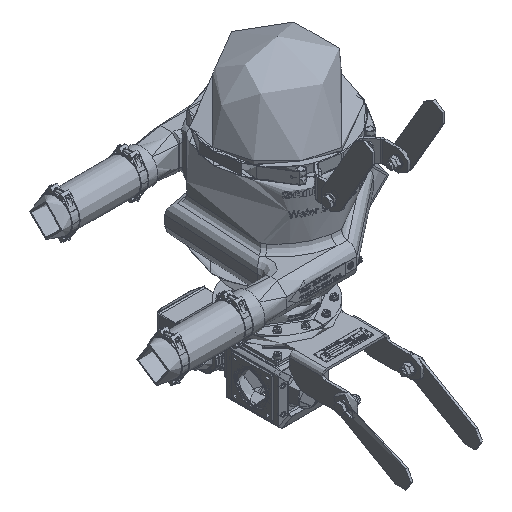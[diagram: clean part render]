
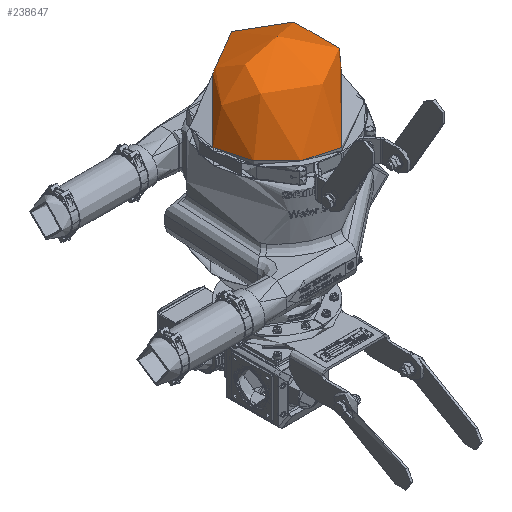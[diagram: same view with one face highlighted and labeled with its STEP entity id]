
A CAD part, isometric view. The second image highlights one B-rep face of the part: STEP entity #238647.
In plain terms, the highlighted spherical face has radius 168 mm.
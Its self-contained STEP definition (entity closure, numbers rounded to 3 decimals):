
#2386=SPHERICAL_SURFACE('',#254809,168.);
#20599=CIRCLE('',#254805,168.);
#20602=CIRCLE('',#254808,168.);
#20603=CIRCLE('',#254810,168.);
#30422=FACE_OUTER_BOUND('',#44335,.T.);
#44335=EDGE_LOOP('',(#193873,#193874,#193875,#193876));
#107508=VERTEX_POINT('',#462744);
#107509=VERTEX_POINT('',#462745);
#107512=VERTEX_POINT('',#462754);
#137552=EDGE_CURVE('',#107508,#107509,#20599,.T.);
#137556=EDGE_CURVE('',#107509,#107508,#20602,.T.);
#137557=EDGE_CURVE('',#107512,#107509,#20603,.T.);
#193873=ORIENTED_EDGE('',*,*,#137552,.T.);
#193874=ORIENTED_EDGE('',*,*,#137557,.F.);
#193875=ORIENTED_EDGE('',*,*,#137557,.T.);
#193876=ORIENTED_EDGE('',*,*,#137556,.T.);
#238647=ADVANCED_FACE('',(#30422),#2386,.T.);
#254805=AXIS2_PLACEMENT_3D('',#462746,#293593,#293594);
#254808=AXIS2_PLACEMENT_3D('',#462752,#293600,#293601);
#254809=AXIS2_PLACEMENT_3D('',#462753,#293602,#293603);
#254810=AXIS2_PLACEMENT_3D('',#462755,#293604,#293605);
#293593=DIRECTION('center_axis',(0.,0.,
1.));
#293594=DIRECTION('ref_axis',(0.,-1.,0.));
#293600=DIRECTION('center_axis',(0.,0.,
1.));
#293601=DIRECTION('ref_axis',(0.,-1.,0.));
#293602=DIRECTION('center_axis',(0.,0.,
1.));
#293603=DIRECTION('ref_axis',(1.,0.,0.));
#293604=DIRECTION('center_axis',(0.,-1.,0.));
#293605=DIRECTION('ref_axis',(-1.,0.,0.));
#462744=CARTESIAN_POINT('',(0.,-168.,26.));
#462745=CARTESIAN_POINT('',(-168.,0.,26.));
#462746=CARTESIAN_POINT('Origin',(0.,0.,
26.));
#462752=CARTESIAN_POINT('Origin',(0.,0.,
26.));
#462753=CARTESIAN_POINT('Origin',(0.,0.,
26.));
#462754=CARTESIAN_POINT('',(0.,0.,
194.));
#462755=CARTESIAN_POINT('Origin',(0.,0.,
26.));
